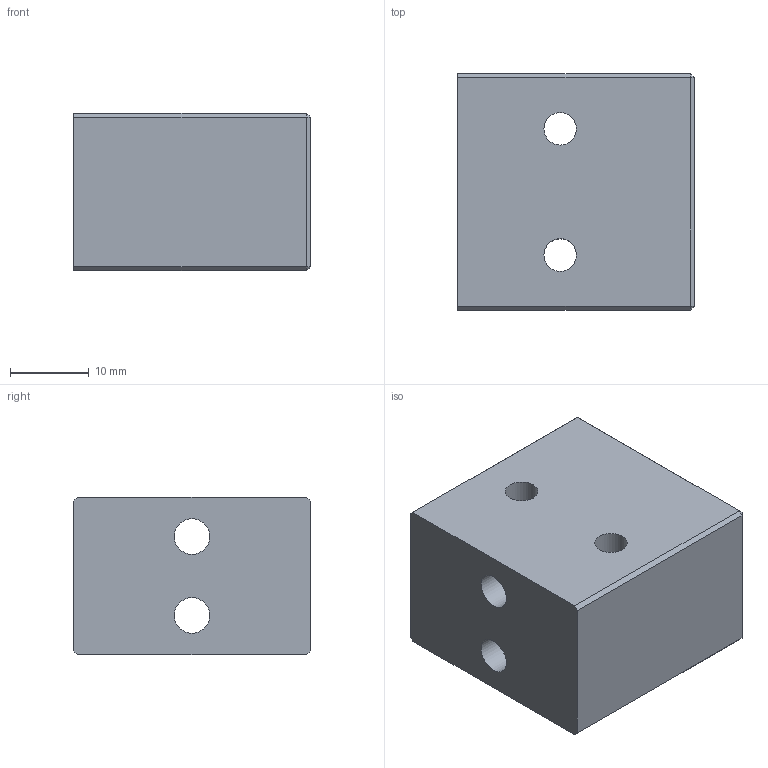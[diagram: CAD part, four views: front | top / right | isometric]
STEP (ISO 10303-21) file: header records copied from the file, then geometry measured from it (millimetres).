
FILE_DESCRIPTION((''),'2;1');
FILE_NAME('Z:\Systeme\Projekte\Interne_Projekte\ifd2400-halter\stp\Z3002208_01.stp','2008-12-19T10:20:24',('11000116'),(''),'Autodesk Inventor 2009','Autodesk Inventor 2009','');
FILE_SCHEMA(('AUTOMOTIVE_DESIGN { 1 0 10303 214 1 1 1 1 }'));
Length unit declared in the file: millimetre
Products named in the file (1): Z3002208_01
Bounding box: 30 x 30 x 20 mm (x, y, z)
Volume: 15806 mm3; surface area: 5828.1 mm2
Topology: 1 solids, 1 shells, 30 faces, 68 edges, 42 vertices
Faces by surface type: plane 18, bspline 12
Entity records: 896 total; most frequent: CARTESIAN_POINT 295, DIRECTION 106, ORIENTED_EDGE 104, EDGE_CURVE 52, EDGE_LOOP 50, VERTEX_POINT 36, VECTOR 36, LINE 36
